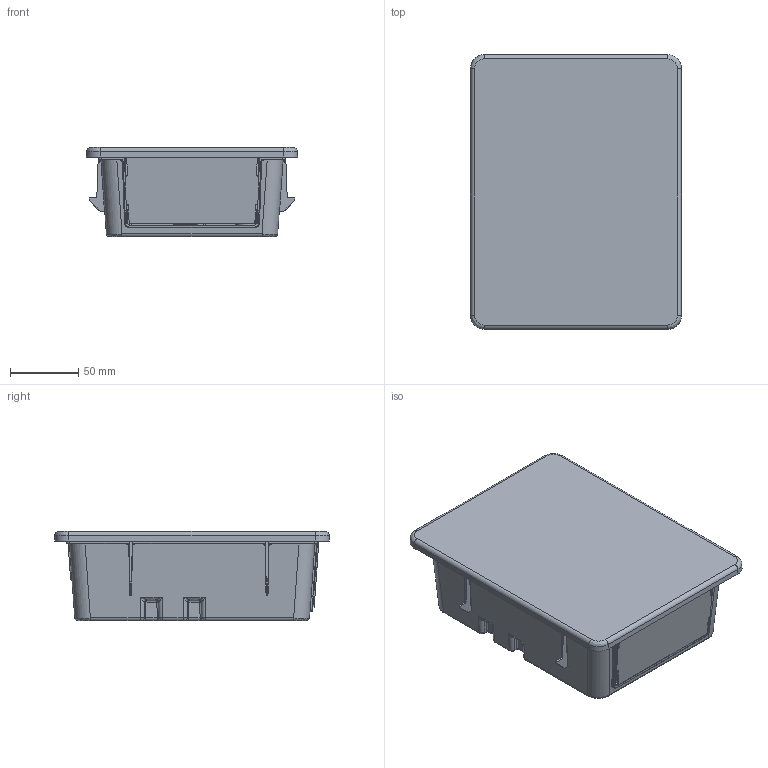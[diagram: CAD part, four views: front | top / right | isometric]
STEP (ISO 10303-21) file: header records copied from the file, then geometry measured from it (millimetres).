
FILE_DESCRIPTION(('STEP AP203'), '1');
FILE_NAME('ÂÐ.493111.005.000-VT.ICBOX.5', '2025-11-25T10:28:41', ('verevichevva'), ('Vesta'), 'C3D Converter', 'C3D Toolkit', '');
FILE_SCHEMA(('CONFIG_CONTROL_DESIGN'));
Length unit declared in the file: millimetre
Products named in the file (1): ВР.493111.005.000
Bounding box: 154.74 x 201.24 x 65.3 mm (x, y, z)
Volume: 480021.7 mm3; surface area: 214772 mm2
Topology: 1 solids, 1 shells, 2636 faces, 6838 edges, 4100 vertices
Faces by surface type: cylinder 811, plane 780, bspline 669, torus 234, cone 105, sphere 37
Full cylindrical faces by diameter (mm): 10 x1, 17 x1, 20.8 x1, 22.5 x2, 24.5 x1, 26 x3, 26.1 x2, 30 x2, 31 x1, 31.5 x1
Entity records: 158280 total; most frequent: CARTESIAN_POINT 101500, ORIENTED_EDGE 13296, DIRECTION 9475, EDGE_CURVE 6648, VERTEX_POINT 4098, AXIS2_PLACEMENT_3D 3540, EDGE_LOOP 2754, FACE_BOUND 2691
